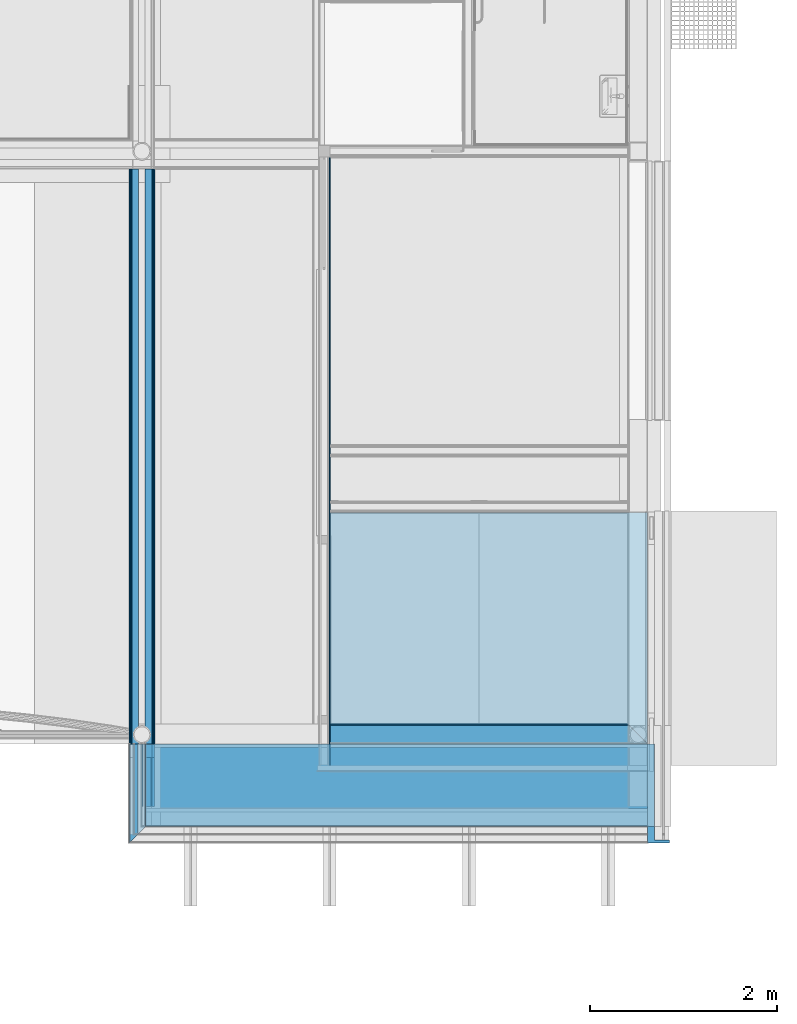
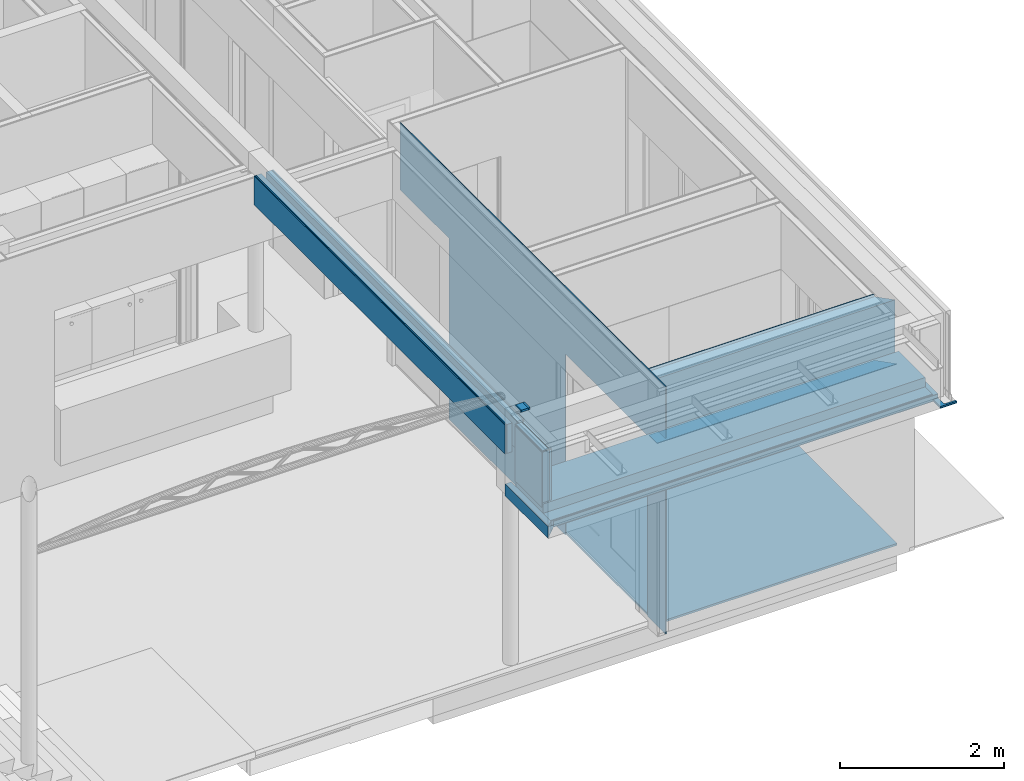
# One storey, part 65 of 165: 23 building element parts, 2 openings, 8 elements without a shape of their own.
"""IFC2X3 building model written with IfcOpenShell, lengths in millimetres."""

import ifcopenshell
import ifcopenshell.guid

model = None  # the IFC model being written
_history = None  # IfcOwnerHistory: only IFC2X3 demands one
_inside = {}  # id of a spatial element -> (the spatial element, [elements in it])
_under = {}  # id of a project, library or spatial element -> (it, [spatial elements below it])
_declared = {}  # id of a project -> (the project, [libraries it declares])
_typed = {}  # id of a type object -> (the type object, [elements of that type])
_made_of = {}  # id of a material, layer set ... -> (it, [elements and type objects made of it])


def new_model(schema):
    """Start an empty IFC model of exactly this schema.

    Asked for "IFC4X3", IfcOpenShell would pick the latest addendum, in which some entities
    have other attributes; the version numbers below select the first issue.
    IFC2X3 requires an IfcOwnerHistory on every rooted entity: one is made here for all.
    """
    global model, _history
    if schema == "IFC4X3":
        model = ifcopenshell.file(schema_version=(4, 3, 0, 0))
    else:
        model = ifcopenshell.file(schema=schema)
    _inside.clear()
    _under.clear()
    _declared.clear()
    _typed.clear()
    _made_of.clear()
    _history = None
    if model.schema == "IFC2X3":
        org = make("IfcOrganization", Name="unknown")
        user = make(
            "IfcPersonAndOrganization",
            ThePerson=make("IfcPerson", FamilyName="unknown"),
            TheOrganization=org,
        )
        app = make(
            "IfcApplication",
            ApplicationDeveloper=org,
            Version="unknown",
            ApplicationFullName="unknown",
            ApplicationIdentifier="unknown",
        )
        _history = make(
            "IfcOwnerHistory",
            OwningUser=user,
            OwningApplication=app,
            ChangeAction="ADDED",
            CreationDate=0,
        )
    return model


def make(cls, **values):
    """One entity of the class cls with the attributes given. An attribute that is None is left unset."""
    return model.create_entity(
        cls, **{name: value for name, value in values.items() if value is not None}
    )


def entity(cls, *values):
    """Any entity or typed value of the class cls, its attributes in the order of the schema. None: left unset."""
    e = model.create_entity(cls)
    for i, value in enumerate(values):
        if value is not None:
            e[i] = value
    return e


def rooted(cls, **values):
    """An entity with a GlobalId (a new one), such as an element, a storey or a relation."""
    return make(cls, GlobalId=ifcopenshell.guid.new(), OwnerHistory=_history, **values)


def si_unit(unit_type, name, prefix=None):
    """IfcSIUnit, for example si_unit("LENGTHUNIT", "METRE", prefix="MILLI")."""
    return make("IfcSIUnit", UnitType=unit_type, Prefix=prefix, Name=name)


def converted_unit(unit_type, name, factor, base, dimensions=None, offset=None):
    """IfcConversionBasedUnit, such as the inch: factor (a typed value) times the base unit."""
    return make(
        "IfcConversionBasedUnit"
        if offset is None
        else "IfcConversionBasedUnitWithOffset",
        ConversionOffset=offset,
        Dimensions=None
        if dimensions is None
        else entity("IfcDimensionalExponents", *dimensions),
        UnitType=unit_type,
        Name=name,
        ConversionFactor=make(
            "IfcMeasureWithUnit", ValueComponent=factor, UnitComponent=base
        ),
    )


def derived_unit(unit_type, elements):
    """IfcDerivedUnit: a product of units, each with its exponent."""
    return make(
        "IfcDerivedUnit",
        Elements=[
            make("IfcDerivedUnitElement", Unit=unit, Exponent=power)
            for unit, power in elements
        ],
        UnitType=unit_type,
    )


def money_unit(currency):
    """IfcMonetaryUnit."""
    return make("IfcMonetaryUnit", Currency=currency)


def assignment(units):
    """IfcUnitAssignment: the units of a project."""
    return None if units is None else make("IfcUnitAssignment", Units=units)


def point(xyz):
    """IfcCartesianPoint."""
    return None if xyz is None else make("IfcCartesianPoint", Coordinates=xyz)


def direction(xyz):
    """IfcDirection."""
    return None if xyz is None else make("IfcDirection", DirectionRatios=xyz)


def frame(location, z_axis=None, x_axis=None):
    """IfcAxis2Placement3D, a coordinate frame: its origin and axes. An axis left out is left unset."""
    return make(
        "IfcAxis2Placement3D",
        Location=point(location),
        Axis=direction(z_axis),
        RefDirection=direction(x_axis),
    )


def origin_with_axes():
    """The frame at (0, 0, 0) with the z axis (0, 0, 1) and the x axis (1, 0, 0) written out."""
    return frame((0.0, 0.0, 0.0), z_axis=(0.0, 0.0, 1.0), x_axis=(1.0, 0.0, 0.0))


def place(relative_to, where):
    """IfcLocalPlacement: puts the frame where relative to a parent placement (None: the world)."""
    return make(
        "IfcLocalPlacement", PlacementRelTo=relative_to, RelativePlacement=where
    )


def context(
    kind, dimensions, precision=None, world=None, true_north=None, identifier=None
):
    """IfcGeometricRepresentationContext, for example the 3D "Model" context."""
    return make(
        "IfcGeometricRepresentationContext",
        ContextIdentifier=identifier,
        ContextType=kind,
        CoordinateSpaceDimension=dimensions,
        Precision=precision,
        WorldCoordinateSystem=world,
        TrueNorth=true_north,
    )


def subcontext(parent, identifier, kind, view, scale=None):
    """IfcGeometricRepresentationSubContext, for example "Body" below "Model"."""
    return make(
        "IfcGeometricRepresentationSubContext",
        ContextIdentifier=identifier,
        ContextType=kind,
        ParentContext=parent,
        TargetScale=scale,
        TargetView=view,
    )


def project(units=None, contexts=None):
    """IfcProject with its units and contexts."""
    return rooted(
        "IfcProject",
        Name="project",
        RepresentationContexts=contexts,
        UnitsInContext=assignment(units),
    )


def spatial(cls, under=None, at=None, **own):
    """A site, building, storey or space (cls), placed at a placement, below another one or the project."""
    s = rooted(cls, ObjectPlacement=at, **own)
    if under is not None:
        _under.setdefault(under.id(), (under, []))[1].append(s)
    return s


def faces_of(points, faces, orient=None, outer=None):
    """IfcFace entities. A face is a list of loops; a loop is a list of indices into points, from 0.

    orient and outer hold one flag for each loop. By default every Orientation is true, the
    first loop of a face is its IfcFaceOuterBound and the others are IfcFaceBound.
    """
    made = []
    for i, loops in enumerate(faces):
        bounds = []
        for j, loop in enumerate(loops):
            is_outer = j == 0 if outer is None else outer[i][j]
            bounds.append(
                make(
                    "IfcFaceOuterBound" if is_outer else "IfcFaceBound",
                    Bound=make("IfcPolyLoop", Polygon=[points[k] for k in loop]),
                    Orientation=True if orient is None else orient[i][j],
                )
            )
        made.append(make("IfcFace", Bounds=bounds))
    return made


def faceted_brep(points, faces, orient=None, outer=None, voids=None):
    """IfcFacetedBrep: a solid bounded by flat faces; with voids (closed shells), ...WithVoids."""
    shared = [point(p) for p in points]
    hull = make("IfcClosedShell", CfsFaces=faces_of(shared, faces, orient, outer))
    if voids is None:
        return make("IfcFacetedBrep", Outer=hull)
    return make(
        "IfcFacetedBrepWithVoids",
        Outer=hull,
        Voids=[
            make(cls, CfsFaces=faces_of(shared, fs, o, b)) for cls, fs, o, b in voids
        ],
    )


def shape(context_of_items, identifier, shape_type, items):
    """IfcShapeRepresentation: the items that make up one representation, for example the "Body"."""
    return make(
        "IfcShapeRepresentation",
        ContextOfItems=context_of_items,
        RepresentationIdentifier=identifier,
        RepresentationType=shape_type,
        Items=items,
    )


def material(Name=None, Category=None):
    """IfcMaterial."""
    return make("IfcMaterial", Name=Name, Category=Category)


def made_of(thing, what):
    """Note that an element or type object is made of a material, layer set ...; save() writes the relation."""
    if what is not None:
        _made_of.setdefault(what.id(), (what, []))[1].append(thing)
    return thing


def type_object(cls, material=None, **own):
    """A type object (cls), such as IfcWallType, which elements share."""
    return made_of(rooted(cls, **own), material)


def element(
    cls,
    number,
    at=None,
    inside=None,
    cuts=None,
    type_object=None,
    material=None,
    context=None,
    identifier="Body",
    shape_type=None,
    held_by="IfcProductDefinitionShape",
    body=None,
    shapes=None,
    **own,
):
    """One element of the class cls, such as IfcWall. Its Tag is "e" and its number.

    at: its placement. inside: the storey or other place that contains it. cuts: it is an
    opening in that element (IfcRelVoidsElement). A single representation is given by context,
    identifier, shape_type and body (its items); several are given by shapes. held_by: the class
    of the entity that holds the representations. save() writes the other relations.
    """
    e = rooted(cls, Tag="e%d" % number, ObjectPlacement=at, **own)
    if body is not None:
        shapes = [shape(context, identifier, shape_type, body)]
    if shapes is not None:
        e.Representation = make(held_by, Representations=shapes)
    if inside is not None:
        _inside.setdefault(inside.id(), (inside, []))[1].append(e)
    if cuts is not None:
        rooted(
            "IfcRelVoidsElement", RelatingBuildingElement=cuts, RelatedOpeningElement=e
        )
    if type_object is not None:
        _typed.setdefault(type_object.id(), (type_object, []))[1].append(e)
    return made_of(e, material)


def aggregate(whole, parts):
    """IfcRelAggregates: a whole, such as a stair, and the parts it consists of."""
    return rooted("IfcRelAggregates", RelatingObject=whole, RelatedObjects=parts)


def save(model, path):
    """Write the relations noted so far, then the file.

    IfcRelAggregates (storeys below a building ...), IfcRelContainedInSpatialStructure (elements
    in a storey), IfcRelDefinesByType, IfcRelAssociatesMaterial and IfcRelDeclares: one each for
    every whole, place, type object, material and project.
    """
    for whole, parts in _under.values():
        aggregate(whole, parts)
    for where, things in _inside.values():
        rooted(
            "IfcRelContainedInSpatialStructure",
            RelatedElements=things,
            RelatingStructure=where,
        )
    for kind, things in _typed.values():
        rooted("IfcRelDefinesByType", RelatedObjects=things, RelatingType=kind)
    for what, things in _made_of.values():
        rooted("IfcRelAssociatesMaterial", RelatedObjects=things, RelatingMaterial=what)
    for by, libraries in _declared.values():
        rooted("IfcRelDeclares", RelatingContext=by, RelatedDefinitions=libraries)
    model.write(path)


model = new_model("IFC2X3")

# Units and contexts
model_context = context("Model", 3, precision=0.01, world=origin_with_axes(), true_north=direction((0.0, 1.0)))
body_context = subcontext(model_context, "Body", "Model", "MODEL_VIEW")
ifc_project = project(units=[si_unit("LENGTHUNIT", "METRE", prefix="MILLI"), si_unit("AREAUNIT", "SQUARE_METRE"), si_unit("VOLUMEUNIT", "CUBIC_METRE"), converted_unit("PLANEANGLEUNIT", "DEGREE", entity("IfcPlaneAngleMeasure", 0.0174532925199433), si_unit("PLANEANGLEUNIT", "RADIAN"), dimensions=[0, 0, 0, 0, 0, 0, 0]), money_unit("EUR"), converted_unit("TIMEUNIT", "Year", entity("IfcTimeMeasure", 31556926.0), si_unit("TIMEUNIT", "SECOND"), dimensions=[0, 0, 1, 0, 0, 0, 0]), si_unit("MASSUNIT", "GRAM", prefix="KILO"), si_unit("THERMODYNAMICTEMPERATUREUNIT", "DEGREE_CELSIUS"), si_unit("LUMINOUSINTENSITYUNIT", "LUMEN"), si_unit("ENERGYUNIT", "JOULE", prefix="MEGA"), derived_unit("THERMALCONDUCTANCEUNIT", [(si_unit("POWERUNIT", "WATT"), 1), (si_unit("LENGTHUNIT", "METRE"), -1), (si_unit("THERMODYNAMICTEMPERATUREUNIT", "KELVIN"), -1)]), derived_unit("SPECIFICHEATCAPACITYUNIT", [(si_unit("ENERGYUNIT", "JOULE"), 1), (si_unit("MASSUNIT", "GRAM", prefix="KILO"), -1), (si_unit("THERMODYNAMICTEMPERATUREUNIT", "KELVIN"), -1)]), derived_unit("MASSDENSITYUNIT", [(si_unit("MASSUNIT", "GRAM", prefix="KILO"), 1), (si_unit("VOLUMEUNIT", "CUBIC_METRE"), -1)])], contexts=[model_context])

# Site, building, storey
site_placement = place(None, origin_with_axes())
site = spatial("IfcSite", under=ifc_project, at=site_placement, Name="Site", CompositionType="ELEMENT")
building_placement = place(site_placement, origin_with_axes())
building = spatial("IfcBuilding", under=site, at=building_placement, Name="Naam gebouw", CompositionType="ELEMENT")
storey_placement = place(building_placement, origin_with_axes())
storey = spatial("IfcBuildingStorey", under=building, at=storey_placement, Name="Begane grond", CompositionType="ELEMENT", Elevation=0.0)

# Proxy, openings, building element part
building_element_proxy_type_1 = type_object("IfcBuildingElementProxyType", Name="22 Metal stud 125 gips 125", PredefinedType="NOTDEFINED")
proxy_1_placement = place(storey_placement, frame((26386.00000000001, 10810.00011055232, -100.0), z_axis=(0.0, 0.0, 1.0), x_axis=(0.0, -1.0, 0.0)))
proxy_1 = element("IfcBuildingElementProxy", 1, at=proxy_1_placement, inside=storey, type_object=building_element_proxy_type_1, Name="_Wand-x")
opening_1_placement = place(proxy_1_placement, frame((662.4999999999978, 0.0, 100.0), z_axis=(0.0, 0.0, 1.0), x_axis=(1.0, 0.0, 0.0)))
element("IfcOpeningElement", 2, at=opening_1_placement, cuts=proxy_1, Name="_B.01", context=body_context, shape_type="Brep", body=[
    faceted_brep([(599.9999999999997, 50.00000000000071, -100.0000000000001), (599.9999999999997, 50.00000000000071, 2600.0), (599.9999999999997, -1.000000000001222, 2600.0), (599.9999999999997, -1.000000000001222, -100.0000000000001), (599.9999999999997, 126.0000000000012, -100.0000000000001), (599.9999999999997, 126.0000000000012, 2600.0), (-599.9999999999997, 50.00000000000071, 2600.0), (-599.9999999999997, -1.000000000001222, 2600.0), (-599.9999999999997, 126.0000000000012, 2600.0), (-599.9999999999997, -1.000000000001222, -100.0000000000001), (-599.9999999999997, 50.00000000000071, -100.0000000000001), (-599.9999999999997, 126.0000000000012, -100.0000000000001)], [[[0, 1, 2, 3]], [[1, 0, 4, 5]], [[6, 7, 2, 1, 5, 8]], [[7, 9, 3, 2]], [[0, 3, 9, 10, 11, 4]], [[5, 4, 11, 8]], [[6, 10, 9, 7]], [[10, 6, 8, 11]]]),
])
opening_2_placement = place(proxy_1_placement, frame((5111.000110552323, 0.0, 100.0), z_axis=(0.0, 0.0, 1.0), x_axis=(1.0, 0.0, 0.0)))
element("IfcOpeningElement", 3, at=opening_2_placement, cuts=proxy_1, Name="_03.02", context=body_context, shape_type="Brep", body=[
    faceted_brep([(1005.0, 126.0000000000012, 2600.0), (1005.0, 126.0000000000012, -100.0000000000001), (-1005.0, 126.0000000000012, -100.0000000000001), (-1005.0, 126.0000000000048, 2600.0), (1005.0, -1.000000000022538, 2600.0), (1005.0, -1.000000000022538, -100.0000000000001), (-1005.0, -1.000000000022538, -100.0000000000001), (-1005.0, -1.000000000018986, 2600.0)], [[[0, 1, 2, 3]], [[4, 5, 1, 0]], [[5, 6, 2, 1]], [[6, 7, 3, 2]], [[7, 4, 0, 3]], [[6, 5, 4, 7]]]),
])
ifc_material_1 = material(Name="Gipsplaat")
building_element_part_1_placement = place(proxy_1_placement, origin_with_axes())
building_element_part_1 = element("IfcBuildingElementPart", 4, at=building_element_part_1_placement, material=ifc_material_1, Name="Gipsplaat", context=body_context, shape_type="Brep", body=[
    faceted_brep([(6555.000110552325, 125.0, 0.0), (6116.000110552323, 125.0, 0.0), (6116.000110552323, 125.0, 2700.0), (4106.000110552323, 125.0, 2700.0), (4106.000110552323, 125.0, 0.0), (1262.499999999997, 125.0, 0.0), (1262.499999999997, 125.0, 2700.0), (62.49999999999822, 125.0, 2700.0), (62.5, 125.0, 3700.0), (6555.000110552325, 125.0, 3700.0), (6555.000110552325, 112.5000000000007, 0.0), (6116.000110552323, 112.5000000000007, 0.0), (6116.000110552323, 112.5000000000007, 2700.0), (4106.000110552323, 112.5000000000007, 2700.0), (4106.000110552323, 112.5000000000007, 0.0), (1262.499999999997, 112.5000000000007, 0.0), (1262.499999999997, 112.5000000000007, 2700.0), (62.49999999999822, 112.5000000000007, 2700.0), (62.5, 112.5000000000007, 3700.0), (6555.000110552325, 112.5000000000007, 3700.0)], [[[0, 1, 2, 3, 4, 5, 6, 7, 8, 9]], [[10, 11, 1, 0]], [[12, 2, 1, 11]], [[13, 3, 2, 12]], [[14, 4, 3, 13]], [[5, 4, 14, 15]], [[6, 5, 15, 16]], [[17, 7, 6, 16]], [[7, 17, 18, 8]], [[9, 8, 18, 19]], [[9, 19, 10, 0]], [[13, 12, 11, 10, 19, 18, 17, 16, 15, 14]]]),
])
aggregate(proxy_1, [building_element_part_1])

# Wall, building element parts
wall_type = type_object("IfcWallType", Name="21 STO Buitengevelisolatie 120 271", PredefinedType="NOTDEFINED")
wall_placement = place(storey_placement, frame((24499.99903999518, 3600.0, 2610.0), z_axis=(0.0, 0.0, 1.0), x_axis=(0.0, 1.0, 0.0)))
wall = element("IfcWall", 5, at=wall_placement, inside=storey, type_object=wall_type, Name="21_Wand-x")
ifc_material_2 = material(Name="Steen - Kalkzandsteen C")
building_element_part_2_placement = place(wall_placement, origin_with_axes())
building_element_part_2 = element("IfcBuildingElementPart", 6, at=building_element_part_2_placement, material=ifc_material_2, Name="Steen - Kalkzandsteen C", context=body_context, shape_type="Brep", body=[
    faceted_brep([(214.0000000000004, -12.00000000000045, 145.9999999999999), (874.9999999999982, -12.00000000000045, 145.9999999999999), (874.9999999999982, -12.00000000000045, 970.0000011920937), (214.0000000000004, -12.00000000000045, 970.0000011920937), (874.9999999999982, 0.0, 145.9999999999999), (214.0000000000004, 0.0, 145.9999999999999), (874.9999999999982, 0.0, 970.0000011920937), (214.0000000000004, 0.0, 970.0000011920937)], [[[0, 1, 2, 3]], [[4, 1, 0, 5]], [[1, 4, 6, 2]], [[7, 3, 2, 6]], [[5, 0, 3, 7]], [[4, 5, 7, 6]]]),
    faceted_brep([(734.7576368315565, -12.00000000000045, 1280.0), (734.7576368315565, -12.00000000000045, 1250.0), (874.9999999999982, -12.00000000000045, 1250.0), (874.9999999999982, -12.00000000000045, 1280.0), (734.7576368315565, 0.0, 1280.0), (734.7576368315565, 0.0, 1250.0), (874.9999999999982, 0.0, 1250.0), (874.9999999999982, 0.0, 1280.0)], [[[0, 1, 2, 3]], [[4, 5, 1, 0]], [[5, 6, 2, 1]], [[3, 2, 6, 7]], [[3, 7, 4, 0]], [[7, 6, 5, 4]]]),
    faceted_brep([(214.0000000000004, -12.00000000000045, 984.9999999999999), (874.9999999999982, -12.00000000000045, 984.9999999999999), (874.9999999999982, -12.00000000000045, 989.9999999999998), (214.0000000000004, -12.00000000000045, 989.9999999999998), (874.9999999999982, 0.0, 984.9999999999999), (214.0000000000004, 0.0, 984.9999999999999), (874.9999999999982, 0.0, 989.9999999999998), (214.0000000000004, 0.0, 989.9999999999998)], [[[0, 1, 2, 3]], [[4, 1, 0, 5]], [[1, 4, 6, 2]], [[7, 3, 2, 6]], [[5, 0, 3, 7]], [[4, 5, 7, 6]]]),
])
building_element_part_3_placement = place(wall_placement, origin_with_axes())
building_element_part_3 = element("IfcBuildingElementPart", 7, at=building_element_part_3_placement, material=ifc_material_1, Name="Gipsplaat", context=body_context, shape_type="Brep", body=[
    faceted_brep([(214.0000000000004, -135.0000000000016, 146.0000006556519), (874.9999999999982, -135.0000000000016, 146.0000006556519), (874.9999999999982, -135.0000000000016, 970.0000011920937), (214.0000000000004, -135.0000000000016, 970.0000011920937), (874.9999999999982, -109.9999999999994, 146.0000006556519), (214.0000000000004, -109.9999999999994, 146.0000006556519), (874.9999999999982, -109.9999999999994, 970.0000011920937), (214.0000000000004, -109.9999999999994, 970.0000011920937)], [[[0, 1, 2, 3]], [[4, 1, 0, 5]], [[1, 4, 6, 2]], [[7, 3, 2, 6]], [[5, 0, 3, 7]], [[4, 5, 7, 6]]]),
    faceted_brep([(734.7576368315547, -135.0000000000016, 1280.0), (734.7576368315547, -135.0000000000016, 1250.0), (874.9999999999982, -135.0000000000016, 1250.0), (874.9999999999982, -135.0000000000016, 1280.0), (734.7576368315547, -109.9999999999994, 1280.0), (734.7576368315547, -109.9999999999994, 1250.0), (874.9999999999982, -109.9999999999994, 1250.0), (874.9999999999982, -109.9999999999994, 1280.0)], [[[0, 1, 2, 3]], [[4, 5, 1, 0]], [[5, 6, 2, 1]], [[3, 2, 6, 7]], [[3, 7, 4, 0]], [[7, 6, 5, 4]]]),
    faceted_brep([(214.0000000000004, -135.0000000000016, 984.9999999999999), (874.9999999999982, -135.0000000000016, 984.9999999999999), (874.9999999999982, -135.0000000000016, 989.9999999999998), (214.0000000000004, -135.0000000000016, 989.9999999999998), (874.9999999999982, -109.9999999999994, 984.9999999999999), (214.0000000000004, -109.9999999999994, 984.9999999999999), (874.9999999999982, -109.9999999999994, 989.9999999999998), (214.0000000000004, -109.9999999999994, 989.9999999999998)], [[[0, 1, 2, 3]], [[4, 1, 0, 5]], [[1, 4, 6, 2]], [[7, 3, 2, 6]], [[5, 0, 3, 7]], [[4, 5, 7, 6]]]),
])
ifc_material_3 = material(Name="ALG - ISOLATIE")
building_element_part_4_placement = place(wall_placement, origin_with_axes())
building_element_part_4 = element("IfcBuildingElementPart", 8, at=building_element_part_4_placement, material=ifc_material_3, Name="ALG - ISOLATIE", context=body_context, shape_type="Brep", body=[
    faceted_brep([(214.0000000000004, -109.9999999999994, 146.0000006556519), (874.9999999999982, -109.9999999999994, 146.0000006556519), (874.9999999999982, -109.9999999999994, 970.0000011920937), (214.0000000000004, -109.9999999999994, 970.0000011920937), (874.9999999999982, -39.99973128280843, 146.0000006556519), (214.0000000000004, -39.99973128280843, 146.0000006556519), (214.0000000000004, -12.00000000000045, 145.9999999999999), (874.9999999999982, -12.00000000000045, 145.9999999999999), (874.9999999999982, -12.00000000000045, 970.0000011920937), (214.0000000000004, -12.00000000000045, 970.0000011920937)], [[[0, 1, 2, 3]], [[4, 1, 0, 5, 6, 7]], [[1, 4, 7, 8, 2]], [[8, 9, 3, 2]], [[5, 0, 3, 9, 6]], [[8, 7, 6, 9]]]),
    faceted_brep([(214.0000000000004, -94.999990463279, 989.9999999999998), (874.9999999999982, -94.999990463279, 989.9999999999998), (874.9999999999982, -12.00000000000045, 989.9999999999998), (214.0000000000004, -12.00000000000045, 989.9999999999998), (874.9999999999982, -94.999990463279, 984.9999999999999), (214.0000000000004, -94.999990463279, 984.9999999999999), (874.9999999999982, -12.00000000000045, 984.9999999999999), (214.0000000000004, -12.00000000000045, 984.9999999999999)], [[[0, 1, 2, 3]], [[4, 1, 0, 5]], [[4, 6, 2, 1]], [[6, 7, 3, 2]], [[5, 0, 3, 7]], [[6, 4, 5, 7]]]),
    faceted_brep([(734.7576368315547, -109.9999999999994, 1280.0), (734.7576368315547, -109.9999999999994, 1250.0), (874.9999999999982, -109.9999999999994, 1250.0), (874.9999999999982, -109.9999999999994, 1280.0), (734.7576368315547, -12.00000000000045, 1280.0), (734.7576368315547, -12.00000000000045, 1250.0), (874.9999999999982, -12.00000000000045, 1250.0), (874.9999999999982, -12.00000000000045, 1280.0)], [[[0, 1, 2, 3]], [[4, 5, 1, 0]], [[5, 6, 2, 1]], [[3, 2, 6, 7]], [[3, 7, 4, 0]], [[7, 6, 5, 4]]]),
    faceted_brep([(214.0000000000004, -109.9999999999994, 984.9999999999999), (874.9999999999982, -109.9999999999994, 984.9999999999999), (874.9999999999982, -109.9999999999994, 989.9999999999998), (214.0000000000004, -109.9999999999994, 989.9999999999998), (874.9999999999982, -101.0000000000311, 984.9999999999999), (214.0000000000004, -101.0000000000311, 984.9999999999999), (874.9999999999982, -101.0000000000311, 989.9999999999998), (214.0000000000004, -101.0000000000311, 989.9999999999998)], [[[0, 1, 2, 3]], [[4, 1, 0, 5]], [[4, 6, 2, 1]], [[6, 7, 3, 2]], [[5, 0, 3, 7]], [[7, 6, 4, 5]]]),
])
aggregate(wall, [building_element_part_2, building_element_part_3, building_element_part_4])

# Proxy, building element parts
building_element_proxy_type_2 = type_object("IfcBuildingElementProxyType", Name="22 Metal stud 270 270", PredefinedType="NOTDEFINED")
proxy_2_placement = place(storey_placement, frame((24499.99903999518, 10620.00011055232, 3200.0), z_axis=(0.0, 0.0, 1.0), x_axis=(0.0, -1.0, 0.0)))
proxy_2 = element("IfcBuildingElementProxy", 9, at=proxy_2_placement, inside=storey, type_object=building_element_proxy_type_2, Name="_Wand-x")
building_element_part_5_placement = place(proxy_2_placement, origin_with_axes())
building_element_part_5 = element("IfcBuildingElementPart", 10, at=building_element_part_5_placement, material=ifc_material_1, Name="Gipsplaat", context=body_context, shape_type="Brep", body=[
    faceted_brep([(6140.000110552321, 122.4999999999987, 399.9999952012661), (6140.000110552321, 135.0000000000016, 399.9999952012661), (6140.000110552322, 135.0000000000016, 430.0000019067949), (6140.000110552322, 122.4999999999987, 430.0000019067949), (6140.000110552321, 134.999999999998, 0.0), (6140.000110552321, 122.4999999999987, 0.0), (0.0, 135.0000000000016, 0.0), (0.0, 135.0000000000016, 429.9999999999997), (0.0, 122.4999999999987, 429.9999999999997), (0.0, 122.4999999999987, 0.0)], [[[0, 1, 2, 3]], [[4, 1, 0, 5]], [[1, 4, 6, 7, 2]], [[3, 2, 7, 8]], [[5, 0, 3, 8, 9]], [[4, 5, 9, 6]], [[7, 6, 9, 8]]]),
])
building_element_part_6_placement = place(proxy_2_placement, origin_with_axes())
building_element_part_6 = element("IfcBuildingElementPart", 11, at=building_element_part_6_placement, material=ifc_material_1, Name="Gipsplaat", context=body_context, shape_type="Brep", body=[
    faceted_brep([(6140.000110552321, 109.9999999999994, 399.9999952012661), (6140.000110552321, 122.4999999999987, 399.9999952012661), (6140.000110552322, 122.4999999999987, 430.0000019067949), (6140.000110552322, 109.9999999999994, 430.0000019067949), (6140.000110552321, 122.4999999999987, 0.0), (6140.000110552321, 109.9999999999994, 0.0), (0.0, 122.4999999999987, 0.0), (0.0, 122.4999999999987, 429.9999999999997), (0.0, 109.9999999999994, 429.9999999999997), (0.0, 109.9999999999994, 0.0)], [[[0, 1, 2, 3]], [[4, 1, 0, 5]], [[1, 4, 6, 7, 2]], [[3, 2, 7, 8]], [[5, 0, 3, 8, 9]], [[4, 5, 9, 6]], [[7, 6, 9, 8]]]),
])
building_element_part_7_placement = place(proxy_2_placement, origin_with_axes())
building_element_part_7 = element("IfcBuildingElementPart", 12, at=building_element_part_7_placement, material=ifc_material_1, Name="Gipsplaat", context=body_context, shape_type="Brep", body=[
    faceted_brep([(6140.000110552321, -135.0000000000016, 399.9999952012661), (6140.000110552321, -122.5000000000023, 399.9999952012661), (6140.000110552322, -122.5000000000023, 430.0000019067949), (6140.000110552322, -135.0000000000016, 430.0000019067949), (6140.000110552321, -122.5000000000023, 0.0), (6140.000110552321, -135.0000000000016, 0.0), (0.0, -122.4999999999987, 0.0), (0.0, -122.4999999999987, 429.9999999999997), (0.0, -135.0000000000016, 429.9999999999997), (0.0, -135.0000000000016, 0.0)], [[[0, 1, 2, 3]], [[4, 1, 0, 5]], [[1, 4, 6, 7, 2]], [[3, 2, 7, 8]], [[5, 0, 3, 8, 9]], [[4, 5, 9, 6]], [[7, 6, 9, 8]]]),
])
ifc_material_4 = material(Name="ALG - LICHTE SCHEIDINGSWAND")
building_element_part_8_placement = place(proxy_2_placement, origin_with_axes())
building_element_part_8 = element("IfcBuildingElementPart", 13, at=building_element_part_8_placement, material=ifc_material_4, Name="ALG - LICHTE SCHEIDINGSWAND", context=body_context, shape_type="Brep", body=[
    faceted_brep([(6140.000110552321, 35.00000000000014, 399.9999952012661), (6140.000110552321, 109.9999999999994, 399.9999952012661), (6140.000110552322, 109.9999999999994, 430.0000019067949), (6140.000110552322, 35.00000000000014, 430.0000019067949), (6140.000110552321, 109.9999999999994, 0.0), (6140.000110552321, 35.00000000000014, 0.0), (0.0, 109.9999999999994, 0.0), (0.0, 109.9999999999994, 429.9999999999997), (0.0, 35.00000000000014, 429.9999999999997), (0.0, 35.00000000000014, 0.0)], [[[0, 1, 2, 3]], [[4, 1, 0, 5]], [[1, 4, 6, 7, 2]], [[3, 2, 7, 8]], [[5, 0, 3, 8, 9]], [[4, 5, 9, 6]], [[7, 6, 9, 8]]]),
])
building_element_part_9_placement = place(proxy_2_placement, origin_with_axes())
building_element_part_9 = element("IfcBuildingElementPart", 14, at=building_element_part_9_placement, material=ifc_material_1, Name="Gipsplaat", context=body_context, shape_type="Brep", body=[
    faceted_brep([(6140.000110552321, -122.5000000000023, 399.9999952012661), (6140.000110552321, -109.9999999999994, 399.9999952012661), (6140.000110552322, -109.9999999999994, 430.0000019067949), (6140.000110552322, -122.5000000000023, 430.0000019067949), (6140.000110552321, -109.9999999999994, 0.0), (6140.000110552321, -122.5000000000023, 0.0), (0.0, -109.9999999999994, 0.0), (0.0, -109.9999999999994, 429.9999999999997), (0.0, -122.4999999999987, 429.9999999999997), (0.0, -122.4999999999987, 0.0)], [[[0, 1, 2, 3]], [[4, 1, 0, 5]], [[1, 4, 6, 7, 2]], [[3, 2, 7, 8]], [[5, 0, 3, 8, 9]], [[4, 5, 9, 6]], [[7, 6, 9, 8]]]),
])
building_element_part_10_placement = place(proxy_2_placement, origin_with_axes())
building_element_part_10 = element("IfcBuildingElementPart", 15, at=building_element_part_10_placement, material=ifc_material_4, Name="ALG - LICHTE SCHEIDINGSWAND", context=body_context, shape_type="Brep", body=[
    faceted_brep([(6140.000110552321, -109.9999999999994, 399.9999952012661), (6140.000110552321, -35.00000000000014, 399.9999952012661), (6140.000110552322, -35.00000000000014, 430.0000019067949), (6140.000110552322, -109.9999999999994, 430.0000019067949), (6140.000110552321, -35.00000000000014, 0.0), (6140.000110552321, -109.9999999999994, 0.0), (0.0, -35.00000000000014, 0.0), (0.0, -35.00000000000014, 429.9999999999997), (0.0, -109.9999999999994, 429.9999999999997), (0.0, -109.9999999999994, 0.0)], [[[0, 1, 2, 3]], [[4, 1, 0, 5]], [[1, 4, 6, 7, 2]], [[3, 2, 7, 8]], [[5, 0, 3, 8, 9]], [[4, 5, 9, 6]], [[7, 6, 9, 8]]]),
])
aggregate(proxy_2, [building_element_part_5, building_element_part_6, building_element_part_7, building_element_part_8, building_element_part_9, building_element_part_10])

# Slab, building element parts
slab_type_1 = type_object("IfcSlabType", Name="45 Geisoleerd buiten plafond 160 176", PredefinedType="NOTDEFINED")
slab_1_placement = place(storey_placement, frame((29972.00000001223, 4479.999955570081, 2580.000000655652), z_axis=(0.0, 0.0, 1.0), x_axis=(1.0, 0.0, 0.0)))
slab_1 = element("IfcSlab", 16, at=slab_1_placement, inside=storey, type_object=slab_type_1, Name="_Vloer-x", PredefinedType="NOTDEFINED")
ifc_material_5 = material(Name="STO lijmlaag")
building_element_part_11_placement = place(slab_1_placement, origin_with_axes())
building_element_part_11 = element("IfcBuildingElementPart", 17, at=building_element_part_11_placement, material=ifc_material_5, Name="STO lijmlaag", context=body_context, shape_type="Brep", body=[
    faceted_brep([(-72.00000001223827, -879.9999564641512, 92.00000000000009), (0.0, -879.9999564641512, 92.00000000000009), (0.0, 0.0, 92.00000000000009), (-5432.001228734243, 0.0, 92.00000000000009), (-5432.001228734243, -879.999980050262, 92.00000000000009), (0.0, -879.9999564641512, 88.00000000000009), (-72.00000001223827, -879.9999564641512, 88.00000000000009), (0.0, 0.0, 88.00000000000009), (-5432.001228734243, 0.0, 88.00000000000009), (-5432.001228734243, -879.999980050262, 88.00000000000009)], [[[0, 1, 2, 3, 4]], [[5, 1, 0, 6]], [[1, 5, 7, 2]], [[2, 7, 8, 3]], [[3, 8, 9, 4]], [[6, 0, 4, 9]], [[5, 6, 9, 8, 7]]]),
])
ifc_material_6 = material(Name="Isolatie - STO EPS")
building_element_part_12_placement = place(slab_1_placement, origin_with_axes())
building_element_part_12 = element("IfcBuildingElementPart", 18, at=building_element_part_12_placement, material=ifc_material_6, Name="Isolatie - STO EPS", context=body_context, shape_type="Brep", body=[
    faceted_brep([(-72.00000001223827, -879.9999564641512, 30.00001137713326), (-72.00000001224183, -1055.999955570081, 30.00001137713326), (162.9999999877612, -1055.999955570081, 30.00001137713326), (162.9999999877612, -1035.99995557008, 30.00001137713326), (163.000001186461, -1025.999955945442, 30.00000893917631), (108.0000000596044, -1025.999957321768, 29.9999999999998), (89.95344992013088, -1025.999957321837, 30.00001137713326), (0.0, -1025.999955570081, 30.00001137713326), (0.0, -879.9999564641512, 30.00001137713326), (-71.99999777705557, -879.9999555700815, 8.000000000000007), (-72.0000576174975, -1055.999955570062, 8.000000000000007), (163.000001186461, -1056.000035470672, 8.000000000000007), (163.000001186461, -1025.999955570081, 8.000000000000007), (0.0, -1025.999955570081, 8.000000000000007), (0.0, 0.0, 8.000000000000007), (0.0, 0.0, 88.00000000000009), (0.0, -879.9999564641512, 88.00000000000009), (-72.00000001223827, -879.9999564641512, 88.00000000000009), (-5432.001228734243, -879.999980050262, 88.00000000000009), (-5432.001228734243, -879.999980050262, 8.000000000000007), (-5432.001228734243, 0.0, 8.000000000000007), (-5432.001228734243, 0.0, 88.00000000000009)], [[[0, 1, 2, 3, 4, 5, 6, 7, 8]], [[0, 9, 10, 1]], [[2, 1, 10, 11]], [[4, 3, 2, 11, 12]], [[7, 6, 5, 4, 12, 13]], [[7, 13, 14, 15, 16, 8]], [[8, 16, 17, 0]], [[0, 17, 18, 19, 9]], [[20, 14, 13, 12, 11, 10, 9, 19]], [[14, 20, 21, 15]], [[17, 16, 15, 21, 18]], [[20, 19, 18, 21]]]),
])
ifc_material_7 = material(Name="STO weefsellaag")
building_element_part_13_placement = place(slab_1_placement, origin_with_axes())
building_element_part_13 = element("IfcBuildingElementPart", 19, at=building_element_part_13_placement, material=ifc_material_7, Name="STO weefsellaag", context=body_context, shape_type="Brep", body=[
    faceted_brep([(0.0, 0.0, 3.000000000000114), (-5432.001228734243, 0.0, 3.000000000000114), (-5432.001228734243, 0.0, 8.000000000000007), (0.0, 0.0, 8.000000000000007), (0.0, -1025.999955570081, 3.000000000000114), (163.000001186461, -1025.999955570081, 3.000000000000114), (163.000001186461, -1056.000035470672, 3.000000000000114), (-72.0000576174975, -1055.999955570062, 3.000000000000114), (-71.99999777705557, -879.9999555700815, 3.000000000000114), (-5432.001228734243, -879.999980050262, 3.000000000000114), (-5432.001228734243, -879.999980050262, 8.000000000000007), (0.0, -1025.999955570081, 8.000000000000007), (-71.99999777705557, -879.9999555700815, 8.000000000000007), (-72.0000576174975, -1055.999955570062, 8.000000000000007), (163.000001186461, -1056.000035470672, 8.000000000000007), (163.000001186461, -1025.999955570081, 8.000000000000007)], [[[0, 1, 2, 3]], [[1, 0, 4, 5, 6, 7, 8, 9]], [[1, 9, 10, 2]], [[11, 3, 2, 10, 12, 13, 14, 15]], [[4, 0, 3, 11]], [[5, 4, 11, 15]], [[6, 5, 15, 14]], [[7, 6, 14, 13]], [[8, 7, 13, 12]], [[9, 8, 12, 10]]]),
])

# Beam, building element part
beam_type_1 = type_object("IfcBeamType", Name="41 Overgang stucwerk wand-plafond 176 x 176", PredefinedType="BEAM")
beam_1_placement = place(storey_placement, frame((24539.99877127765, 4479.999999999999, 2756.0), z_axis=(0.0, 0.0, 1.0), x_axis=(-1.0, 0.0, 0.0)))
beam_1 = element("IfcBeam", 20, at=beam_1_placement, inside=storey, type_object=beam_type_1, Name="_Regenwaterafvoer-x", ObjectType="BEAM")
ifc_material_8 = material(Name="STO pleisterlaag")
building_element_part_14_placement = place(beam_1_placement, origin_with_axes())
building_element_part_14 = element("IfcBuildingElementPart", 21, at=building_element_part_14_placement, material=ifc_material_8, Name="STO pleisterlaag", context=body_context, shape_type="Brep", body=[
    faceted_brep([(172.9999999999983, 1053.0, -173.0000000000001), (0.0, 880.0000000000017, -173.0000000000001), (0.0, 0.0, -173.0000000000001), (173.0000000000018, 0.0, -173.0000000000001), (172.9999999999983, 1053.0, 0.0), (175.9999999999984, 1056.0, 0.0), (175.9999999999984, 1056.0, -176.0000000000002), (0.0, 880.0000000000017, -176.0000000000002), (0.0, 0.0, -176.0000000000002), (176.0000000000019, 0.0, -176.0000000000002), (176.0000000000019, 0.0, 0.0), (173.0000000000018, 0.0, 0.0)], [[[0, 1, 2, 3]], [[0, 4, 5, 6, 7, 1]], [[1, 7, 8, 2]], [[3, 2, 8, 9, 10, 11]], [[4, 0, 3, 11]], [[5, 4, 11, 10]], [[6, 5, 10, 9]], [[7, 6, 9, 8]]]),
])

# Building element part
building_element_part_15_placement = place(slab_1_placement, origin_with_axes())
building_element_part_15 = element("IfcBuildingElementPart", 22, at=building_element_part_15_placement, material=ifc_material_8, Name="STO pleisterlaag", context=body_context, shape_type="Brep", body=[
    faceted_brep([(0.0, 0.0, 3.000000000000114), (0.0, 0.0, 0.0), (-5432.001228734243, 0.0, 0.0), (-5432.001228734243, 0.0, 3.000000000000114), (0.0, -1025.999955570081, 3.000000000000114), (0.0, -1025.999955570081, 0.0), (163.000001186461, -1025.999955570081, 0.0), (163.000001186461, -1056.000035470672, 0.0), (-72.0000576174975, -1055.999955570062, 0.0), (-71.99999777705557, -879.9999555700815, 0.0), (-5432.001228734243, -879.999980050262, 0.0), (-5432.001228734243, -879.999980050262, 3.000000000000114), (-71.99999777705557, -879.9999555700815, 3.000000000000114), (-72.0000576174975, -1055.999955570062, 3.000000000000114), (163.000001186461, -1056.000035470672, 3.000000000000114), (163.000001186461, -1025.999955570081, 3.000000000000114)], [[[0, 1, 2, 3]], [[4, 5, 1, 0]], [[2, 1, 5, 6, 7, 8, 9, 10]], [[3, 2, 10, 11]], [[4, 0, 3, 11, 12, 13, 14, 15]], [[15, 6, 5, 4]], [[14, 7, 6, 15]], [[13, 8, 7, 14]], [[12, 9, 8, 13]], [[11, 10, 9, 12]]]),
])

aggregate(slab_1, [building_element_part_11, building_element_part_12, building_element_part_13, building_element_part_15])

building_element_part_16_placement = place(beam_1_placement, origin_with_axes())
building_element_part_16 = element("IfcBuildingElementPart", 23, at=building_element_part_16_placement, material=ifc_material_7, Name="STO weefsellaag", context=body_context, shape_type="Brep", body=[
    faceted_brep([(0.0, 880.0000000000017, -167.9999992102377), (0.0, 880.0000000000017, -173.0000000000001), (0.0, 0.0, -173.0000000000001), (0.0, 0.0, -167.9999992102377), (167.9999992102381, 1047.999999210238, -167.9999992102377), (167.9999992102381, 1047.999999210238, 0.0), (172.9999999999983, 1053.0, 0.0), (172.9999999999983, 1053.0, -173.0000000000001), (173.0000000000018, 0.0, -173.0000000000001), (173.0000000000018, 0.0, 0.0), (167.9999992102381, 0.0, 0.0), (167.9999992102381, 0.0, -167.9999992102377)], [[[0, 1, 2, 3]], [[0, 4, 5, 6, 7, 1]], [[1, 7, 8, 2]], [[3, 2, 8, 9, 10, 11]], [[4, 0, 3, 11]], [[5, 4, 11, 10]], [[6, 5, 10, 9]], [[7, 6, 9, 8]]]),
])

building_element_part_17_placement = place(beam_1_placement, origin_with_axes())
building_element_part_17 = element("IfcBuildingElementPart", 24, at=building_element_part_17_placement, material=ifc_material_6, Name="Isolatie - STO EPS", context=body_context, shape_type="Brep", body=[
    faceted_brep([(167.9999999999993, 1048.0, 0.0), (88.00000000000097, 968.0000000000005, 0.0), (88.00000000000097, 0.0, 0.0), (167.9999999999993, 0.0, 0.0), (167.9999999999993, 1048.0, -168.0000000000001), (88.00000000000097, 968.0000000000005, -168.0000000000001), (88.00000000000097, 0.0, -168.0000000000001), (167.9999999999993, 0.0, -168.0000000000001)], [[[0, 1, 2, 3]], [[0, 4, 5, 1]], [[1, 5, 6, 2]], [[3, 2, 6, 7]], [[4, 0, 3, 7]], [[5, 4, 7, 6]]]),
])

aggregate(beam_1, [building_element_part_14, building_element_part_16, building_element_part_17])

# Slab, building element part
slab_type_2 = type_object("IfcSlabType", Name="43 Zwevende dekvloer 100", PredefinedType="NOTDEFINED")
slab_2_placement = place(storey_placement, frame((26511.0, 4249.999999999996, 0.0), z_axis=(0.0, 0.0, 1.0), x_axis=(1.0, 0.0, 0.0)))
slab_2 = element("IfcSlab", 25, at=slab_2_placement, inside=storey, type_object=slab_type_2, Name="_Vloer-x", PredefinedType="NOTDEFINED")
ifc_material_9 = material(Name="Isolatie - XPS zwevende dekvloer")
building_element_part_18_placement = place(slab_2_placement, origin_with_axes())
building_element_part_18 = element("IfcBuildingElementPart", 26, at=building_element_part_18_placement, material=ifc_material_9, Name="Isolatie - XPS zwevende dekvloer", context=body_context, shape_type="Brep", body=[
    faceted_brep([(0.0, 230.0000000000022, -69.99999999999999), (3388.999999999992, 230.0000000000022, -69.99999999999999), (3388.999999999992, 2699.997857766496, -69.99999999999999), (0.0, 2699.997865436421, -69.99999999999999), (3388.999999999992, 230.0000000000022, -100.0), (0.0, 230.0000000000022, -100.0), (3388.999999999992, 2699.997857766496, -100.0), (0.0, 2699.997865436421, -100.0)], [[[0, 1, 2, 3]], [[4, 1, 0, 5]], [[1, 4, 6, 2]], [[2, 6, 7, 3]], [[5, 0, 3, 7]], [[4, 5, 7, 6]]]),
])
aggregate(slab_2, [building_element_part_18])

# Beam, building element parts
beam_type_2 = type_object("IfcBeamType", Name="31 HSB boven kozijnen 214 x 1000", PredefinedType="BEAM")
beam_2_placement = place(storey_placement, frame((29686.0, 4693.999999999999, 2600.000000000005), z_axis=(0.0, 0.0, 1.0), x_axis=(0.0, 1.0, 0.0)))
beam_2 = element("IfcBeam", 27, at=beam_2_placement, inside=storey, type_object=beam_type_2, Name="28_Balk-x", ObjectType="BEAM")
building_element_part_19_placement = place(beam_2_placement, origin_with_axes())
building_element_part_19 = element("IfcBuildingElementPart", 28, at=building_element_part_19_placement, material=ifc_material_1, Name="Gipsplaat", context=body_context, shape_type="Brep", body=[
    faceted_brep([(-214.0000025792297, 3174.999999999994, 12.00000596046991), (-214.0000025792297, 3174.999999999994, 0.0), (-214.0000025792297, -214.0000025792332, 0.0), (-214.0000025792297, -214.0000025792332, 12.00000596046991), (-11.99999661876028, 3174.999999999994, 12.00000596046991), (-11.99999661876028, 3174.999999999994, 0.0), (-11.99999661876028, -11.99999661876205, 0.0), (-11.99999661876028, -11.99999661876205, 12.00000596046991)], [[[0, 1, 2, 3]], [[0, 4, 5, 1]], [[1, 5, 6, 2]], [[3, 2, 6, 7]], [[4, 0, 3, 7]], [[5, 4, 7, 6]]]),
])
building_element_part_20_placement = place(beam_2_placement, origin_with_axes())
building_element_part_20 = element("IfcBuildingElementPart", 29, at=building_element_part_20_placement, material=ifc_material_1, Name="Gipsplaat", context=body_context, shape_type="Brep", body=[
    faceted_brep([(-11.99999661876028, 3174.999999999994, 0.0), (9.341709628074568e-06, 3174.999999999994, 0.0), (9.341709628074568e-06, 9.341711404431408e-06, 0.0), (-11.99999661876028, -11.99999661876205, 0.0), (-11.99999661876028, 3174.999999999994, 999.9999999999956), (9.341709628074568e-06, 3174.999999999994, 999.9999999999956), (9.341709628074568e-06, 9.341707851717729e-06, 999.9999999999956), (-11.99999661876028, -11.99999661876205, 999.9999999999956)], [[[0, 1, 2, 3]], [[0, 4, 5, 1]], [[1, 5, 6, 2]], [[3, 2, 6, 7]], [[4, 0, 3, 7]], [[5, 4, 7, 6]]]),
])
building_element_part_21_placement = place(beam_2_placement, origin_with_axes())
building_element_part_21 = element("IfcBuildingElementPart", 30, at=building_element_part_21_placement, material=ifc_material_3, Name="ALG - ISOLATIE", context=body_context, shape_type="Brep", body=[
    faceted_brep([(-11.99999999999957, 3174.999999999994, 49.99999999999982), (-11.99999999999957, 3174.999999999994, 961.9999999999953), (-11.99999999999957, -12.00000000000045, 961.9999999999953), (-11.99999999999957, -12.00000000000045, 49.99999999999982), (-195.9999999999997, 3174.999999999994, 49.99999999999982), (-195.9999999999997, 3174.999999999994, 961.9999999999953), (-195.9999999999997, -196.0000000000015, 961.9999999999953), (-195.9999999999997, -196.0000000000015, 49.99999999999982)], [[[0, 1, 2, 3]], [[0, 4, 5, 1]], [[1, 5, 6, 2]], [[3, 2, 6, 7]], [[4, 0, 3, 7]], [[5, 4, 7, 6]]]),
])
aggregate(beam_2, [building_element_part_19, building_element_part_20, building_element_part_21])

beam_type_3 = type_object("IfcBeamType", Name="31 HSB boven hoofdentree 880 x 928", PredefinedType="BEAM")
beam_3_placement = place(storey_placement, frame((29899.99999999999, 4479.999981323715, 2600.000000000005), z_axis=(0.0, 0.0, 1.0), x_axis=(4.749795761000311e-09, 1.0, 0.0)))
beam_3 = element("IfcBeam", 31, at=beam_3_placement, inside=storey, type_object=beam_type_3, Name="28_Balk-x", ObjectType="BEAM")
ifc_material_10 = material(Name="Cementgebonden plaatmateriaal")
building_element_part_22_placement = place(beam_3_placement, origin_with_axes())
building_element_part_22 = element("IfcBuildingElementPart", 32, at=building_element_part_22_placement, material=ifc_material_10, Name="Cementgebonden plaatmateriaal", context=body_context, shape_type="Brep", body=[
    faceted_brep([(0.0, 5400.000960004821, 83.99998837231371), (-867.999997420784, 5400.000960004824, 83.99998837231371), (-867.9999974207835, 0.0, 83.99998837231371), (0.0, 0.0, 83.99998837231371), (0.0, 5400.000960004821, 71.99999395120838), (-867.999997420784, 5400.000960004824, 71.99999395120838), (-867.9999974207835, 0.0, 71.99999395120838), (0.0, 0.0, 71.99999395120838)], [[[0, 1, 2, 3]], [[0, 4, 5, 1]], [[1, 5, 6, 2]], [[3, 2, 6, 7]], [[4, 0, 3, 7]], [[5, 4, 7, 6]]]),
])
building_element_part_23_placement = place(beam_3_placement, origin_with_axes())
building_element_part_23 = element("IfcBuildingElementPart", 33, at=building_element_part_23_placement, material=ifc_material_3, Name="ALG - ISOLATIE", context=body_context, shape_type="Brep", body=[
    faceted_brep([(-689.999997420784, 5400.000960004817, 223.9999939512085), (-689.999997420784, 5400.000960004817, 83.99999395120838), (-689.9999974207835, 0.0, 83.99999395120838), (-689.9999974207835, 0.0, 223.9999939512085), (-38.00000000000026, 5400.000960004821, 223.9999939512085), (-38.00000000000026, 5400.000960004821, 83.99999395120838), (-37.99999999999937, 0.0, 83.99999395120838), (-37.99999999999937, 0.0, 223.9999939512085)], [[[0, 1, 2, 3]], [[0, 4, 5, 1]], [[1, 5, 6, 2]], [[3, 2, 6, 7]], [[4, 0, 3, 7]], [[5, 4, 7, 6]]]),
])
aggregate(beam_3, [building_element_part_22, building_element_part_23])

save(model, "model.ifc")
